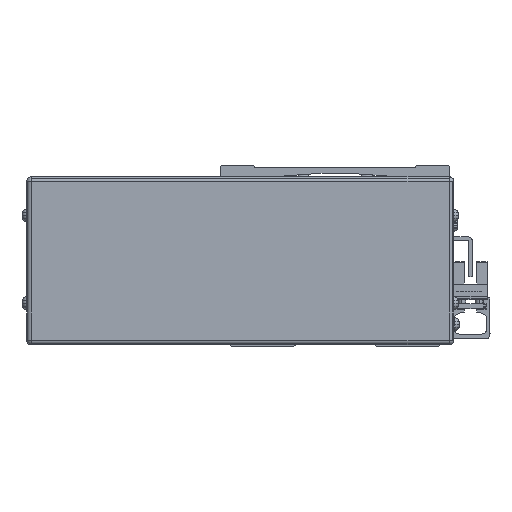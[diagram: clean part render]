
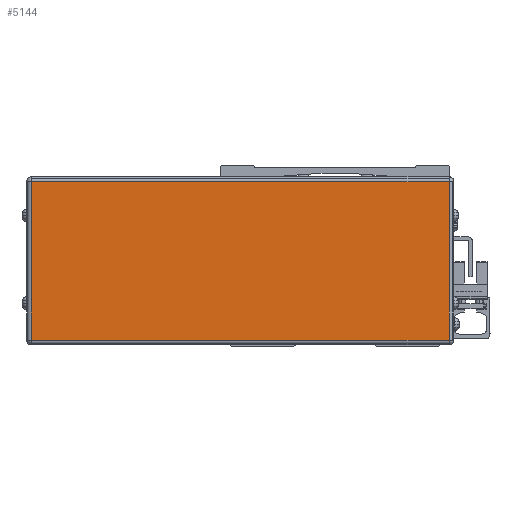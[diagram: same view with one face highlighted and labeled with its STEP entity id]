
A CAD part, front view. The second image highlights one B-rep face of the part: STEP entity #5144.
In plain terms, the highlighted planar face has unit normal (0, -1, 0).
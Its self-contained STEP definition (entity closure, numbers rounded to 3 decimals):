
#5144=ADVANCED_FACE('',(#11470),#11471,.F.);
#11470=FACE_OUTER_BOUND('',#19999,.T.);
#11471=PLANE('',#20000);
#19999=EDGE_LOOP('',(#35790,#35791,#35792,#35793));
#20000=AXIS2_PLACEMENT_3D('',#35794,#35795,#35796);
#35790=ORIENTED_EDGE('',*,*,#50471,.T.);
#35791=ORIENTED_EDGE('',*,*,#50329,.T.);
#35792=ORIENTED_EDGE('',*,*,#52924,.T.);
#35793=ORIENTED_EDGE('',*,*,#52925,.T.);
#35794=CARTESIAN_POINT('',(-39.,-188.778,-42.5));
#35795=DIRECTION('',(0.0,1.0,-0.0));
#35796=DIRECTION('',(-1.0,0.0,0.0));
#50329=EDGE_CURVE('',#61558,#61556,#61559,.T.);
#50471=EDGE_CURVE('',#61189,#61558,#61779,.T.);
#52924=EDGE_CURVE('',#61556,#65380,#65381,.T.);
#52925=EDGE_CURVE('',#65380,#61189,#65382,.T.);
#61189=VERTEX_POINT('',#76399);
#61556=VERTEX_POINT('',#76895);
#61558=VERTEX_POINT('',#76897);
#61559=LINE('',#76898,#76899);
#61779=LINE('',#77218,#77219);
#65380=VERTEX_POINT('',#82756);
#65381=LINE('',#82757,#82758);
#65382=LINE('',#82759,#82760);
#76399=CARTESIAN_POINT('',(-124.7,-188.778,-40.5));
#76895=CARTESIAN_POINT('',(46.7,-188.778,24.5));
#76897=CARTESIAN_POINT('',(46.7,-188.778,-40.5));
#76898=CARTESIAN_POINT('',(46.7,-188.778,-42.5));
#76899=VECTOR('',#91894,10.0);
#77218=CARTESIAN_POINT('',(-39.,-188.778,-40.5));
#77219=VECTOR('',#92084,10.0);
#82756=CARTESIAN_POINT('',(-124.7,-188.778,24.5));
#82757=CARTESIAN_POINT('',(-39.,-188.778,24.5));
#82758=VECTOR('',#95022,10.0);
#82759=CARTESIAN_POINT('',(-124.7,-188.778,-42.5));
#82760=VECTOR('',#95023,10.0);
#91894=DIRECTION('',(0.0,0.0,1.0));
#92084=DIRECTION('',(1.0,0.0,0.0));
#95022=DIRECTION('',(-1.0,0.0,0.0));
#95023=DIRECTION('',(-0.0,0.0,-1.0));
